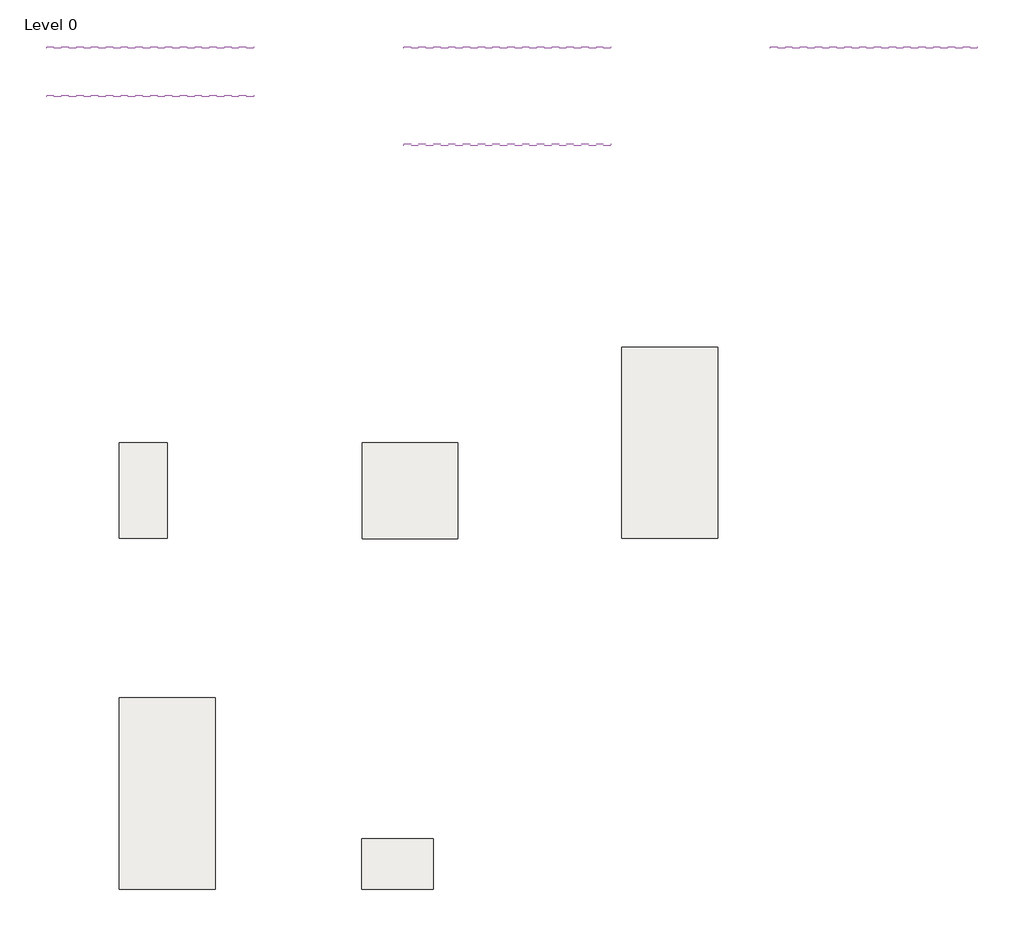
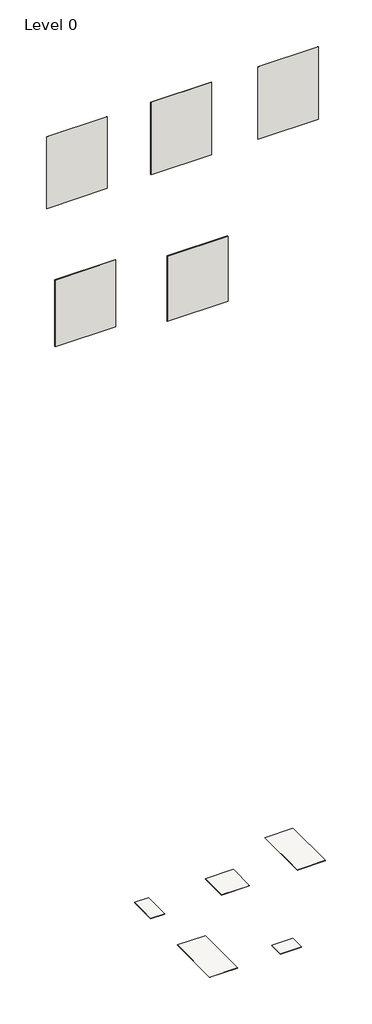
# One storey: 5 slabs, 5 walls.
"""IFC4 building model written with IfcOpenShell, lengths in millimetres."""

from ifc_helpers import new_model, si_unit, frame, origin, place, context, project, spatial, polyline, outline, extrude, element, save

model = new_model("IFC4")

# Units and contexts
model_context = context("Model", 3, world=origin())
ifc_project = project(units=[si_unit("LENGTHUNIT", "METRE", prefix="MILLI")], contexts=[model_context])

# Site, building, storey
site = spatial("IfcSite", under=ifc_project)
building = spatial("IfcBuilding", under=site)
storey = spatial("IfcBuildingStorey", under=building, Name="Level 0", Elevation=0.0)

# Slabs
placement = place(None, origin())
element("IfcSlab", 1, ObjectType="Floor_Tiles_Refin-Blended-White-60x120 OA57", at=placement, inside=storey, context=model_context, shape_type="SweptSolid", body=[
    extrude(outline(polyline([(10127.1861419, 6259.4623743), (10127.1861419, 5059.4623743), (9527.1861419, 5059.4623743), (9527.1861419, 6259.4623743), (10127.1861419, 6259.4623743)])), frame((0.0, 0.0, -10.0), z_axis=(0.0, 0.0, 1.0), x_axis=(1.0, 0.0, 0.0)), (0.0, 0.0, 1.0), 10.0),
])
element("IfcSlab", 2, ObjectType="Floor_Tiles_Refin-Blended-White-30x60 OA92", at=placement, inside=storey, context=model_context, shape_type="SweptSolid", body=[
    extrude(outline(polyline([(6674.3752062, 5659.4623743), (6674.3752062, 5059.4623743), (6374.3752062, 5059.4623743), (6374.3752062, 5659.4623743), (6674.3752062, 5659.4623743)])), frame((0.0, 0.0, -10.0), z_axis=(0.0, 0.0, 1.0), x_axis=(1.0, 0.0, 0.0)), (0.0, 0.0, 1.0), 10.0),
])
element("IfcSlab", 3, ObjectType="Floor_Tiles_Refin-Blended-White-GRIP-60x120 OB68", at=placement, inside=storey, context=model_context, shape_type="SweptSolid", body=[
    extrude(outline(polyline([(6974.3752062, 4059.4623743), (6974.3752062, 2859.4623743), (6374.3752062, 2859.4623743), (6374.3752062, 4059.4623743), (6974.3752062, 4059.4623743)])), frame((0.0, 0.0, -10.0), z_axis=(0.0, 0.0, 1.0), x_axis=(1.0, 0.0, 0.0)), (0.0, 0.0, 1.0), 10.0),
])
element("IfcSlab", 4, ObjectType="Floor_Tiles_Refin-Blended-White-60x60 OA87", at=placement, inside=storey, context=model_context, shape_type="SweptSolid", body=[
    extrude(outline(polyline([(8497.3924055, 5658.4192064), (8497.3924055, 5058.4192064), (7897.3924055, 5058.4192064), (7897.3924055, 5658.4192064), (8497.3924055, 5658.4192064)])), frame((0.0, 0.0, -10.0), z_axis=(0.0, 0.0, 1.0), x_axis=(1.0, 0.0, 0.0)), (0.0, 0.0, 1.0), 10.0),
])
element("IfcSlab", 5, ObjectType="Floor_Tiles_Refin-Blended-White-MURETTO-3D-31.5x45 NX95", at=placement, inside=storey, context=model_context, shape_type="SweptSolid", body=[
    extrude(outline(polyline([(8344.3752062, 3174.4623743), (8344.3752062, 2859.4623743), (7894.3752062, 2859.4623743), (7894.3752062, 3174.4623743), (8344.3752062, 3174.4623743)])), frame((0.0, 0.0, -11.0), z_axis=(0.0, 0.0, 1.0), x_axis=(1.0, 0.0, 0.0)), (0.0, 0.0, 1.0), 11.0),
])

# Walls
element("IfcWall", 6, ObjectType="Wall_Tiles_Refin-Blended-White-60x60 OA87", at=placement, inside=storey, context=model_context, shape_type="SweptSolid", body=[
    extrude(outline(polyline([(9457.3752062, 8132.3838631), (8157.3752062, 8132.3838631), (8157.3752062, 8142.3838631), (9457.3752062, 8142.3838631), (9457.3752062, 8132.3838631)])), frame((0.0, 0.0, 14387.6770443), z_axis=(0.0, 0.0, 1.0), x_axis=(1.0, 0.0, 0.0)), (0.0, 0.0, 1.0), 1641.7417352),
])
element("IfcWall", 7, ObjectType="Wall_Tiles_Refin-Blended-White-60x120 OA57", at=placement, inside=storey, context=model_context, shape_type="SweptSolid", body=[
    extrude(outline(polyline([(11757.3752062, 8132.3838631), (10457.3752062, 8132.3838631), (10457.3752062, 8142.3838631), (11757.3752062, 8142.3838631), (11757.3752062, 8132.3838631)])), frame((0.0, 0.0, 14387.6770443), z_axis=(0.0, 0.0, 1.0), x_axis=(1.0, 0.0, 0.0)), (0.0, 0.0, 1.0), 1641.7417352),
])
element("IfcWall", 8, ObjectType="Wall_Tiles_Refin-Blended-White-30x60 OA92", at=placement, inside=storey, context=model_context, shape_type="SweptSolid", body=[
    extrude(outline(polyline([(7217.3752062, 8132.3838631), (5917.3752062, 8132.3838631), (5917.3752062, 8142.3838631), (7217.3752062, 8142.3838631), (7217.3752062, 8132.3838631)])), frame((0.0, 0.0, 14403.7267346), z_axis=(0.0, 0.0, 1.0), x_axis=(1.0, 0.0, 0.0)), (0.0, 0.0, 1.0), 1625.692045),
])
element("IfcWall", 9, ObjectType="Wall_Tiles_Refin-Blended-White-GRIP-60x120 OB68", at=placement, inside=storey, context=model_context, shape_type="SweptSolid", body=[
    extrude(outline(polyline([(7217.3752062, 7827.3838631), (5917.3752062, 7827.3838631), (5917.3752062, 7837.3838631), (7217.3752062, 7837.3838631), (7217.3752062, 7827.3838631)])), frame((0.0, 0.0, 11452.5436262), z_axis=(0.0, 0.0, 1.0), x_axis=(1.0, 0.0, 0.0)), (0.0, 0.0, 1.0), 1513.1985566),
])
element("IfcWall", 10, ObjectType="Wall_Tiles_Refin-Blended-White-MURETTO-3D-31.5x45 NX95", at=placement, inside=storey, context=model_context, shape_type="SweptSolid", body=[
    extrude(outline(polyline([(9457.3752062, 7521.8838631), (8157.3752062, 7521.8838631), (8157.3752062, 7532.8838631), (9457.3752062, 7532.8838631), (9457.3752062, 7521.8838631)])), frame((0.0, 0.0, 11430.0146935), z_axis=(0.0, 0.0, 1.0), x_axis=(1.0, 0.0, 0.0)), (0.0, 0.0, 1.0), 1477.498761),
])

save(model, "model.ifc")
